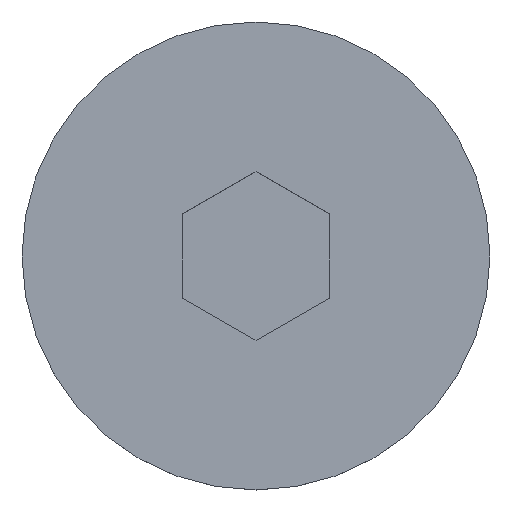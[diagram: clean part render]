
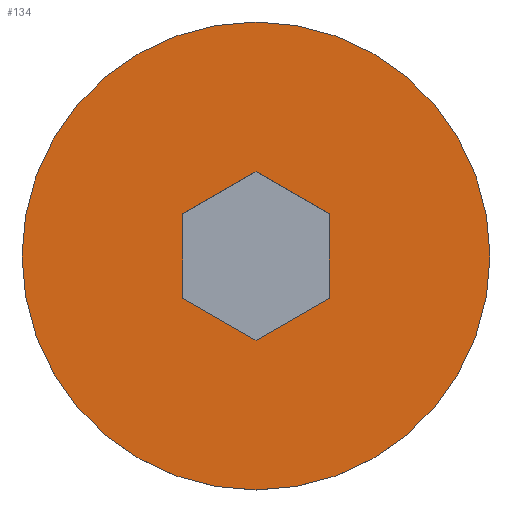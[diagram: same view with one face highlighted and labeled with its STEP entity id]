
A CAD part, top view. The second image highlights one B-rep face of the part: STEP entity #134.
In plain terms, the highlighted planar face has unit normal (0, 0, 1).
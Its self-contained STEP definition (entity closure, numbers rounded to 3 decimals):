
#3 = DIRECTION ( 'NONE',  ( 0., 0., -1. ) ) ;
#11 = EDGE_CURVE ( 'NONE', #414, #365, #78, .T. ) ;
#13 = FACE_BOUND ( 'NONE', #79, .T. ) ;
#18 = CIRCLE ( 'NONE', #283, 9.61 ) ;
#26 = ORIENTED_EDGE ( 'NONE', *, *, #375, .F. ) ;
#33 = DIRECTION ( 'NONE',  ( 0.866, -0.5, 0. ) ) ;
#35 = DIRECTION ( 'NONE',  ( -0.866, -0.5, 0. ) ) ;
#42 = DIRECTION ( 'NONE',  ( 0., 0., 1. ) ) ;
#43 = VERTEX_POINT ( 'NONE', #378 ) ;
#48 = EDGE_CURVE ( 'NONE', #428, #43, #286, .T. ) ;
#49 = DIRECTION ( 'NONE',  ( 0.866, 0.5, 0. ) ) ;
#58 = DIRECTION ( 'NONE',  ( 0., -1., 0. ) ) ;
#71 = ORIENTED_EDGE ( 'NONE', *, *, #194, .F. ) ;
#73 = LINE ( 'NONE', #252, #243 ) ;
#75 = FACE_OUTER_BOUND ( 'NONE', #390, .T. ) ;
#78 = LINE ( 'NONE', #444, #245 ) ;
#79 = EDGE_LOOP ( 'NONE', ( #158, #26, #135, #110, #227, #178 ) ) ;
#95 = EDGE_CURVE ( 'NONE', #152, #414, #379, .T. ) ;
#96 = VECTOR ( 'NONE', #33, 1000. ) ;
#99 = EDGE_CURVE ( 'NONE', #295, #291, #18, .T. ) ;
#107 = DIRECTION ( 'NONE',  ( -1., 0., 0. ) ) ;
#110 = ORIENTED_EDGE ( 'NONE', *, *, #48, .F. ) ;
#115 = DIRECTION ( 'NONE',  ( -0.866, 0.5, 0. ) ) ;
#123 = CARTESIAN_POINT ( 'NONE',  ( -3., 1.732, 5.22 ) ) ;
#134 = ADVANCED_FACE ( 'NONE', ( #13, #75 ), #351, .T. ) ;
#135 = ORIENTED_EDGE ( 'NONE', *, *, #326, .F. ) ;
#139 = CARTESIAN_POINT ( 'NONE',  ( 3., 1.732, 5.22 ) ) ;
#152 = VERTEX_POINT ( 'NONE', #413 ) ;
#158 = ORIENTED_EDGE ( 'NONE', *, *, #95, .F. ) ;
#163 = CARTESIAN_POINT ( 'NONE',  ( 0., 3.464, 5.22 ) ) ;
#172 = VECTOR ( 'NONE', #191, 1000. ) ;
#178 = ORIENTED_EDGE ( 'NONE', *, *, #11, .F. ) ;
#184 = CIRCLE ( 'NONE', #186, 9.61 ) ;
#186 = AXIS2_PLACEMENT_3D ( 'NONE', #242, #3, #107 ) ;
#191 = DIRECTION ( 'NONE',  ( 0., 1., 0. ) ) ;
#194 = EDGE_CURVE ( 'NONE', #291, #295, #184, .T. ) ;
#196 = VECTOR ( 'NONE', #58, 1000. ) ;
#197 = CARTESIAN_POINT ( 'NONE',  ( 3., -1.732, 5.22 ) ) ;
#200 = CARTESIAN_POINT ( 'NONE',  ( -3., -1.732, 5.22 ) ) ;
#205 = CARTESIAN_POINT ( 'NONE',  ( 0., 0., 5.22 ) ) ;
#212 = CARTESIAN_POINT ( 'NONE',  ( -9.61, 0., 5.22 ) ) ;
#218 = VECTOR ( 'NONE', #115, 1000. ) ;
#227 = ORIENTED_EDGE ( 'NONE', *, *, #395, .F. ) ;
#228 = CARTESIAN_POINT ( 'NONE',  ( -3., 1.732, 5.22 ) ) ;
#235 = CARTESIAN_POINT ( 'NONE',  ( -3., -1.732, 5.22 ) ) ;
#242 = CARTESIAN_POINT ( 'NONE',  ( 0., 0., 5.22 ) ) ;
#243 = VECTOR ( 'NONE', #49, 1000. ) ;
#245 = VECTOR ( 'NONE', #35, 1000. ) ;
#252 = CARTESIAN_POINT ( 'NONE',  ( 0., -3.464, 5.22 ) ) ;
#283 = AXIS2_PLACEMENT_3D ( 'NONE', #205, #385, #320 ) ;
#286 = LINE ( 'NONE', #200, #96 ) ;
#291 = VERTEX_POINT ( 'NONE', #325 ) ;
#295 = VERTEX_POINT ( 'NONE', #357 ) ;
#300 = CARTESIAN_POINT ( 'NONE',  ( 3., -1.732, 5.22 ) ) ;
#320 = DIRECTION ( 'NONE',  ( -1., 0., 0. ) ) ;
#325 = CARTESIAN_POINT ( 'NONE',  ( 9.61, 0., 5.22 ) ) ;
#326 = EDGE_CURVE ( 'NONE', #43, #433, #73, .T. ) ;
#327 = LINE ( 'NONE', #228, #196 ) ;
#348 = LINE ( 'NONE', #197, #172 ) ;
#351 = PLANE ( 'NONE',  #356 ) ;
#356 = AXIS2_PLACEMENT_3D ( 'NONE', #212, #42, #411 ) ;
#357 = CARTESIAN_POINT ( 'NONE',  ( -9.61, 0., 5.22 ) ) ;
#358 = ORIENTED_EDGE ( 'NONE', *, *, #99, .F. ) ;
#365 = VERTEX_POINT ( 'NONE', #123 ) ;
#375 = EDGE_CURVE ( 'NONE', #433, #152, #348, .T. ) ;
#378 = CARTESIAN_POINT ( 'NONE',  ( 0., -3.464, 5.22 ) ) ;
#379 = LINE ( 'NONE', #139, #218 ) ;
#385 = DIRECTION ( 'NONE',  ( 0., 0., -1. ) ) ;
#390 = EDGE_LOOP ( 'NONE', ( #358, #71 ) ) ;
#395 = EDGE_CURVE ( 'NONE', #365, #428, #327, .T. ) ;
#411 = DIRECTION ( 'NONE',  ( 1., 0., 0. ) ) ;
#413 = CARTESIAN_POINT ( 'NONE',  ( 3., 1.732, 5.22 ) ) ;
#414 = VERTEX_POINT ( 'NONE', #163 ) ;
#428 = VERTEX_POINT ( 'NONE', #235 ) ;
#433 = VERTEX_POINT ( 'NONE', #300 ) ;
#444 = CARTESIAN_POINT ( 'NONE',  ( 0., 3.464, 5.22 ) ) ;
